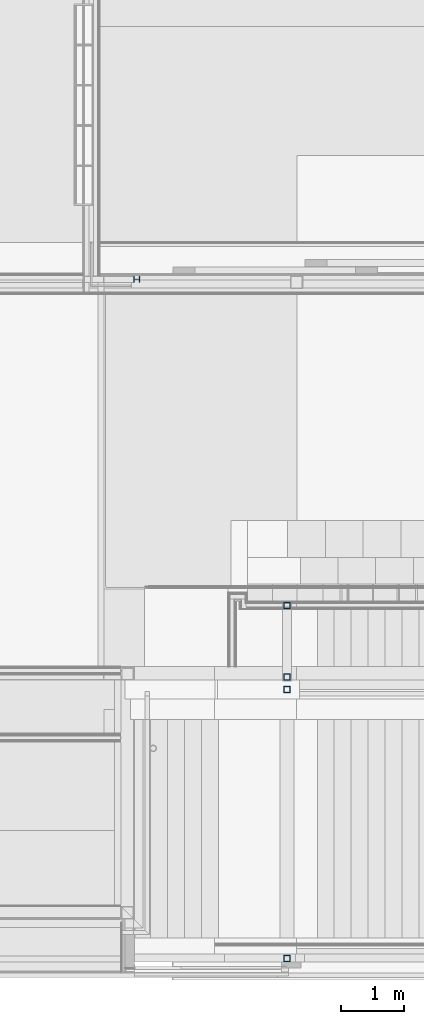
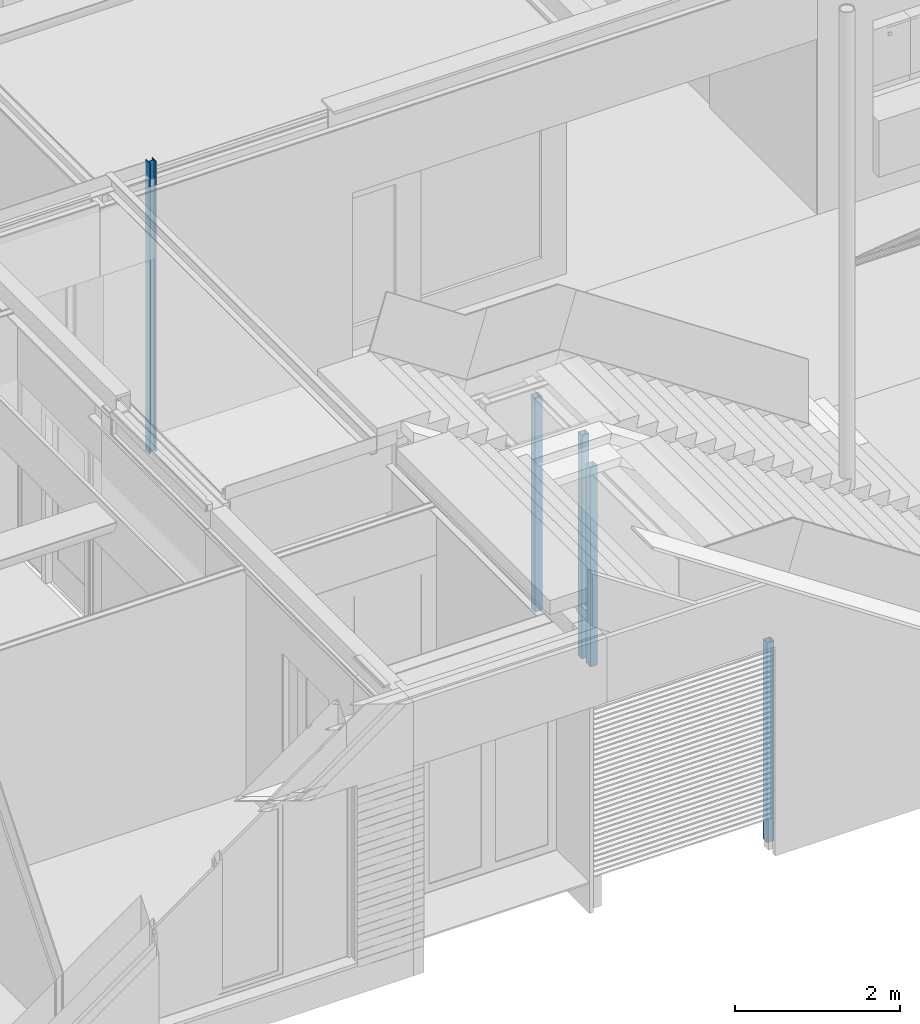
# One storey, part 2 of 165: 5 columns.
"""IFC2X3 building model written with IfcOpenShell, lengths in millimetres."""

from ifc_helpers import new_model, entity, si_unit, converted_unit, derived_unit, money_unit, direction, frame, origin_with_axes, place, context, subcontext, project, spatial, faceted_brep, material, type_object, element, save


model = new_model("IFC2X3")

# Units and contexts
model_context = context("Model", 3, precision=0.01, world=origin_with_axes(), true_north=direction((0.0, 1.0)))
body_context = subcontext(model_context, "Body", "Model", "MODEL_VIEW")
ifc_project = project(units=[si_unit("LENGTHUNIT", "METRE", prefix="MILLI"), si_unit("AREAUNIT", "SQUARE_METRE"), si_unit("VOLUMEUNIT", "CUBIC_METRE"), converted_unit("PLANEANGLEUNIT", "DEGREE", entity("IfcPlaneAngleMeasure", 0.0174532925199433), si_unit("PLANEANGLEUNIT", "RADIAN"), dimensions=[0, 0, 0, 0, 0, 0, 0]), money_unit("EUR"), converted_unit("TIMEUNIT", "Year", entity("IfcTimeMeasure", 31556926.0), si_unit("TIMEUNIT", "SECOND"), dimensions=[0, 0, 1, 0, 0, 0, 0]), si_unit("MASSUNIT", "GRAM", prefix="KILO"), si_unit("THERMODYNAMICTEMPERATUREUNIT", "DEGREE_CELSIUS"), si_unit("LUMINOUSINTENSITYUNIT", "LUMEN"), si_unit("ENERGYUNIT", "JOULE", prefix="MEGA"), derived_unit("THERMALCONDUCTANCEUNIT", [(si_unit("POWERUNIT", "WATT"), 1), (si_unit("LENGTHUNIT", "METRE"), -1), (si_unit("THERMODYNAMICTEMPERATUREUNIT", "KELVIN"), -1)]), derived_unit("SPECIFICHEATCAPACITYUNIT", [(si_unit("ENERGYUNIT", "JOULE"), 1), (si_unit("MASSUNIT", "GRAM", prefix="KILO"), -1), (si_unit("THERMODYNAMICTEMPERATUREUNIT", "KELVIN"), -1)]), derived_unit("MASSDENSITYUNIT", [(si_unit("MASSUNIT", "GRAM", prefix="KILO"), 1), (si_unit("VOLUMEUNIT", "CUBIC_METRE"), -1)])], contexts=[model_context])

# Site, building, storey
site_placement = place(None, origin_with_axes())
site = spatial("IfcSite", under=ifc_project, at=site_placement, Name="Site", CompositionType="ELEMENT")
building_placement = place(site_placement, origin_with_axes())
building = spatial("IfcBuilding", under=site, at=building_placement, Name="Naam gebouw", CompositionType="ELEMENT")
storey_placement = place(building_placement, origin_with_axes())
storey = spatial("IfcBuildingStorey", under=building, at=storey_placement, Name="Begane grond", CompositionType="ELEMENT", Elevation=0.0)

# Columns
ifc_material = material(Name="Metaal - Staal C")
column_type_1 = type_object("IfcColumnType", Name="HEA100 100 x 96", PredefinedType="COLUMN")
column_1_placement = place(storey_placement, frame((11598.0, 10860.00011055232, -425.0), z_axis=(0.0, 0.0, 1.0), x_axis=(1.0, 0.0, 0.0)))
element("IfcColumn", 1, at=column_1_placement, inside=storey, type_object=column_type_1, material=ifc_material, Name="28_Kolom-x", ObjectType="COLUMN", context=body_context, shape_type="Brep", body=[
    faceted_brep([(-48.00000000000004, -50.00000000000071, 4300.00000000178), (-48.00000000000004, -50.00000000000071, 0.0), (-39.99999999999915, -50.00000000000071, 0.0), (-39.99999999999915, -50.00000000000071, 4300.00000000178), (-48.00000000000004, 50.00000000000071, 4300.00000000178), (-48.00000000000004, 50.00000000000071, 0.0), (-39.99999999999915, 50.00000000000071, 0.0), (-39.99999999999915, 2.499999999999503, 0.0), (39.99999999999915, 2.499999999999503, 0.0), (39.99999999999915, 50.00000000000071, 0.0), (48.00000000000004, 50.00000000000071, 0.0), (48.00000000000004, -50.00000000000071, 0.0), (39.99999999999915, -50.00000000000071, 0.0), (39.99999999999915, -2.499999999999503, 0.0), (-39.99999999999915, -2.499999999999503, 0.0), (-39.99999999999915, -2.499999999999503, 4300.00000000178), (39.99999999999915, -2.499999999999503, 4300.00000000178), (39.99999999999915, -50.00000000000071, 4300.00000000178), (48.00000000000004, -50.00000000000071, 4300.00000000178), (48.00000000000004, 50.00000000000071, 4300.00000000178), (39.99999999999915, 50.00000000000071, 4300.00000000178), (39.99999999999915, 2.499999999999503, 4300.00000000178), (-39.99999999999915, 2.499999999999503, 4300.00000000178), (-39.99999999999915, 50.00000000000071, 4300.00000000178)], [[[0, 1, 2, 3]], [[4, 5, 1, 0]], [[2, 1, 5, 6, 7, 8, 9, 10, 11, 12, 13, 14]], [[3, 2, 14, 15]], [[4, 0, 3, 15, 16, 17, 18, 19, 20, 21, 22, 23]], [[23, 6, 5, 4]], [[22, 7, 6, 23]], [[21, 8, 7, 22]], [[20, 9, 8, 21]], [[19, 10, 9, 20]], [[18, 11, 10, 19]], [[17, 12, 11, 18]], [[16, 13, 12, 17]], [[15, 14, 13, 16]]]),
])
column_type_2 = type_object("IfcColumnType", Name="100X100X6 100 x 100", PredefinedType="COLUMN")
column_2_placement = place(storey_placement, frame((13990.0, 4529.999999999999, -449.9999999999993), z_axis=(0.0, 0.0, 1.0), x_axis=(1.0, 0.0, 0.0)))
element("IfcColumn", 2, at=column_2_placement, inside=storey, type_object=column_type_2, material=ifc_material, Name="28_Kolom-x", ObjectType="COLUMN", context=body_context, shape_type="Brep", body=[
    faceted_brep([(-50.00000000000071, -49.99999999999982, 3300.0), (-50.00000000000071, -49.99999999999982, 0.0), (50.00000000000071, -49.99999999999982, 0.0), (50.00000000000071, -49.99999999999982, 3300.0), (-50.00000000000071, 49.99999999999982, 3300.0), (-50.00000000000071, 49.99999999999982, 0.0), (50.00000000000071, 49.99999999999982, 0.0), (-44.00000000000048, 43.99999999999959, 0.0), (-44.00000000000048, -43.99999999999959, 0.0), (44.00000000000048, -43.99999999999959, 0.0), (44.00000000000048, 43.99999999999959, 0.0), (50.00000000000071, 49.99999999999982, 3300.0), (44.00000000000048, -43.99999999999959, 3300.0), (-44.00000000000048, -43.99999999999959, 3300.0), (-44.00000000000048, 43.99999999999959, 3300.0), (44.00000000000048, 43.99999999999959, 3300.0)], [[[0, 1, 2, 3]], [[4, 5, 1, 0]], [[2, 1, 5, 6], [7, 8, 9, 10]], [[3, 2, 6, 11]], [[4, 0, 3, 11], [12, 13, 14, 15]], [[11, 6, 5, 4]], [[13, 8, 7, 14]], [[12, 9, 8, 13]], [[15, 10, 9, 12]], [[14, 7, 10, 15]]]),
])
column_3_placement = place(storey_placement, frame((13990.0, 4329.999999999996, -449.9999999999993), z_axis=(0.0, 0.0, 1.0), x_axis=(1.0, 0.0, 0.0)))
element("IfcColumn", 3, at=column_3_placement, inside=storey, type_object=column_type_2, material=ifc_material, Name="28_Kolom-x", ObjectType="COLUMN", context=body_context, shape_type="Brep", body=[
    faceted_brep([(-50.00000000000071, -49.99999999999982, 2955.0), (-50.00000000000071, -49.99999999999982, 0.0), (50.00000000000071, -49.99999999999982, 0.0), (50.00000000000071, -49.99999999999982, 2955.0), (-50.00000000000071, 49.99999999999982, 2955.0), (-50.00000000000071, 49.99999999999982, 0.0), (50.00000000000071, 49.99999999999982, 0.0), (-44.00000000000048, 43.99999999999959, 0.0), (-44.00000000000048, -43.99999999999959, 0.0), (44.00000000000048, -43.99999999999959, 0.0), (44.00000000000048, 43.99999999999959, 0.0), (50.00000000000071, 49.99999999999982, 2955.0), (44.00000000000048, -43.99999999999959, 2955.0), (-44.00000000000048, -43.99999999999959, 2955.0), (-44.00000000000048, 43.99999999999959, 2955.0), (44.00000000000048, 43.99999999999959, 2955.0)], [[[0, 1, 2, 3]], [[4, 5, 1, 0]], [[2, 1, 5, 6], [7, 8, 9, 10]], [[3, 2, 6, 11]], [[4, 0, 3, 11], [12, 13, 14, 15]], [[11, 6, 5, 4]], [[13, 8, 7, 14]], [[12, 9, 8, 13]], [[15, 10, 9, 12]], [[14, 7, 10, 15]]]),
])
column_4_placement = place(storey_placement, frame((13990.0, 5667.500004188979, -449.9999999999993), z_axis=(0.0, 0.0, 1.0), x_axis=(1.0, 0.0, 0.0)))
element("IfcColumn", 4, at=column_4_placement, inside=storey, type_object=column_type_2, material=ifc_material, Name="28_Kolom-x", ObjectType="COLUMN", context=body_context, shape_type="Brep", body=[
    faceted_brep([(-50.00000000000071, -49.99999999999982, 3166.999999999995), (-50.00000000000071, -49.99999999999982, 0.0), (50.00000000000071, -49.99999999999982, 0.0), (50.00000000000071, -49.99999999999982, 3166.999999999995), (-50.00000000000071, 49.99999999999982, 3166.999999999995), (-50.00000000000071, 49.99999999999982, 0.0), (50.00000000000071, 49.99999999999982, 0.0), (-44.00000000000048, 43.99999999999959, 0.0), (-44.00000000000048, -43.99999999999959, 0.0), (44.00000000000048, -43.99999999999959, 0.0), (44.00000000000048, 43.99999999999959, 0.0), (50.00000000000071, 49.99999999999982, 3166.999999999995), (44.00000000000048, -43.99999999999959, 3166.999999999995), (-44.00000000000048, -43.99999999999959, 3166.999999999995), (-44.00000000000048, 43.99999999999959, 3166.999999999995), (44.00000000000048, 43.99999999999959, 3166.999999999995)], [[[0, 1, 2, 3]], [[4, 5, 1, 0]], [[2, 1, 5, 6], [7, 8, 9, 10]], [[3, 2, 6, 11]], [[4, 0, 3, 11], [12, 13, 14, 15]], [[11, 6, 5, 4]], [[13, 8, 7, 14]], [[12, 9, 8, 13]], [[15, 10, 9, 12]], [[14, 7, 10, 15]]]),
])
column_5_placement = place(storey_placement, frame((13990.0, 49.99999999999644, -449.9999999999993), z_axis=(0.0, 0.0, 1.0), x_axis=(1.0, 0.0, 0.0)))
element("IfcColumn", 5, at=column_5_placement, inside=storey, type_object=column_type_2, material=ifc_material, Name="28_Kolom-x", ObjectType="COLUMN", context=body_context, shape_type="Brep", body=[
    faceted_brep([(-50.00000000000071, -50.0, 2955.0), (-50.00000000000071, -50.0, 0.0), (50.00000000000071, -50.0, 0.0), (50.00000000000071, -50.0, 2955.0), (-50.00000000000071, 50.00000000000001, 2955.0), (-50.00000000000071, 50.00000000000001, 0.0), (50.00000000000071, 50.00000000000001, 0.0), (-44.00000000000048, 44.00000000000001, 0.0), (-44.00000000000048, -44.00000000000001, 0.0), (44.00000000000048, -44.00000000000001, 0.0), (44.00000000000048, 44.00000000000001, 0.0), (50.00000000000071, 50.00000000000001, 2955.0), (44.00000000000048, -44.00000000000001, 2955.0), (-44.00000000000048, -44.00000000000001, 2955.0), (-44.00000000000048, 44.00000000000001, 2955.0), (44.00000000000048, 44.00000000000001, 2955.0)], [[[0, 1, 2, 3]], [[4, 5, 1, 0]], [[2, 1, 5, 6], [7, 8, 9, 10]], [[3, 2, 6, 11]], [[4, 0, 3, 11], [12, 13, 14, 15]], [[11, 6, 5, 4]], [[13, 8, 7, 14]], [[12, 9, 8, 13]], [[15, 10, 9, 12]], [[14, 7, 10, 15]]]),
])

save(model, "model.ifc")
